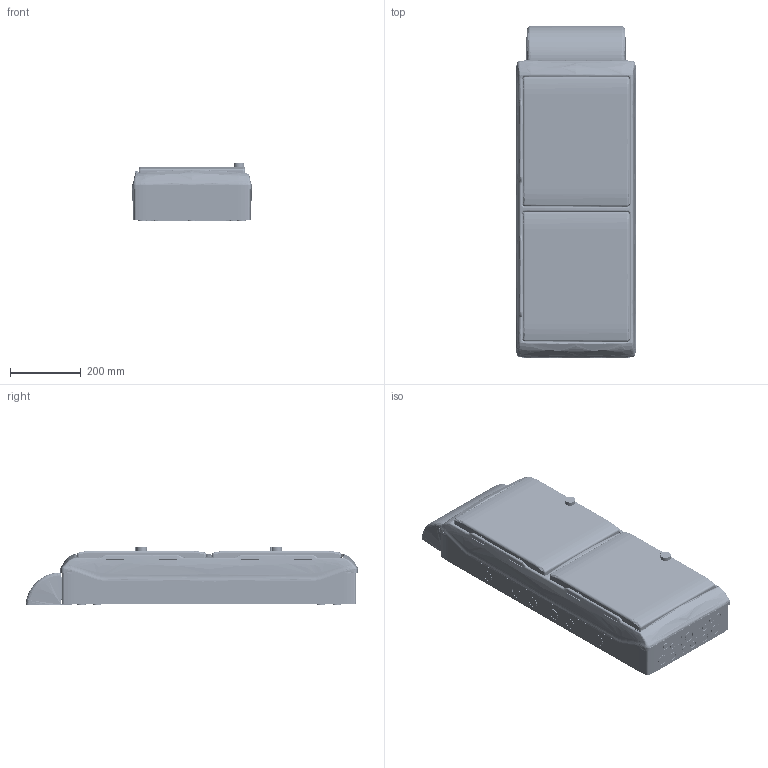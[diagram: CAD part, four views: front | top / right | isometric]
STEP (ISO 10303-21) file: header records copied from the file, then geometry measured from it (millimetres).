
FILE_DESCRIPTION((''),'2;1');
FILE_NAME('13988_3D-SIMPLIFIED_ASM','2024-02-16T16:20:36',('gines.fernandez'),(''),'CREO PARAMETRIC BY PTC INC, 2018260','CREO PARAMETRIC BY PTC INC, 2018260','');
FILE_SCHEMA(('AUTOMOTIVE_DESIGN { 1 0 10303 214 1 1 1 1 }'));
Products named in the file (76): 13988_3D-SIMPLIFIED_1; 13988_3D-SIMPLIFIED_2; 13988_3D-SIMPLIFIED_3; 13988_3D-SIMPLIFIED_4; 13988_3D-SIMPLIFIED_5; 13988_3D-SIMPLIFIED_11; 13988_3D-SIMPLIFIED_12; 13988_3D-SIMPLIFIED_13; 13988_3D-SIMPLIFIED_19; 13988_3D-SIMPLIFIED_20; 13988_3D-SIMPLIFIED_21; 13988_3D-SIMPLIFIED_25; 13988_3D-SIMPLIFIED_26; 13988_3D-SIMPLIFIED_27; 13988_3D-SIMPLIFIED_31; 13988_3D-SIMPLIFIED_32; 13988_3D-SIMPLIFIED_33; 13988_3D-SIMPLIFIED_34; 13988_3D-SIMPLIFIED_35; 13988_3D-SIMPLIFIED_36; 13988_3D-SIMPLIFIED_37; 13988_3D-SIMPLIFIED_38; 13988_3D-SIMPLIFIED_39; 13988_3D-SIMPLIFIED_42; 13988_3D-SIMPLIFIED_43; 13988_3D-SIMPLIFIED_44; 13988_3D-SIMPLIFIED_45; 13988_3D-SIMPLIFIED_46; 13988_3D-SIMPLIFIED_47; 13988_3D-SIMPLIFIED_48; 13988_3D-SIMPLIFIED_49; 13988_3D-SIMPLIFIED_50; 13988_3D-SIMPLIFIED_53; 13988_3D-SIMPLIFIED_54; 13988_3D-SIMPLIFIED_55; 13988_3D-SIMPLIFIED_56; 13988_3D-SIMPLIFIED_59; 13988_3D-SIMPLIFIED_60; 13988_3D-SIMPLIFIED_61; 13988_3D-SIMPLIFIED_62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
Assembly tree (75 placements, depth 3):
  13988_3D-SIMPLIFIED_ASM
    ASM0002_ASM
      13988_3D-SIMPLIFIED_1
      13988_3D-SIMPLIFIED_2
      13988_3D-SIMPLIFIED_3
      13988_3D-SIMPLIFIED_4
      13988_3D-SIMPLIFIED_5
      13988_3D-SIMPLIFIED_11
      13988_3D-SIMPLIFIED_12
      13988_3D-SIMPLIFIED_13
      13988_3D-SIMPLIFIED_19
      13988_3D-SIMPLIFIED_20
      13988_3D-SIMPLIFIED_21
      13988_3D-SIMPLIFIED_25
      13988_3D-SIMPLIFIED_26
      13988_3D-SIMPLIFIED_27
      13988_3D-SIMPLIFIED_31
      13988_3D-SIMPLIFIED_32
      13988_3D-SIMPLIFIED_33
      13988_3D-SIMPLIFIED_34
      13988_3D-SIMPLIFIED_35
      13988_3D-SIMPLIFIED_36
      13988_3D-SIMPLIFIED_37
      13988_3D-SIMPLIFIED_38
      13988_3D-SIMPLIFIED_39
      13988_3D-SIMPLIFIED_42
      13988_3D-SIMPLIFIED_43
      13988_3D-SIMPLIFIED_44
      13988_3D-SIMPLIFIED_45
      13988_3D-SIMPLIFIED_46
      13988_3D-SIMPLIFIED_47
      13988_3D-SIMPLIFIED_48
      13988_3D-SIMPLIFIED_49
      13988_3D-SIMPLIFIED_50
      13988_3D-SIMPLIFIED_53
      13988_3D-SIMPLIFIED_54
      13988_3D-SIMPLIFIED_55
      13988_3D-SIMPLIFIED_56
      13988_3D-SIMPLIFIED_59
      13988_3D-SIMPLIFIED_60
      13988_3D-SIMPLIFIED_61
      13988_3D-SIMPLIFIED_62
      13988_3D-SIMPLIFIED_63
      13988_3D-SIMPLIFIED_65
      13988_3D-SIMPLIFIED_66
      13988_3D-SIMPLIFIED_69
      13988_3D-SIMPLIFIED_70
      13988_3D-SIMPLIFIED_71
      13988_3D-SIMPLIFIED_72
      13988_3D-SIMPLIFIED_73
      13988_3D-SIMPLIFIED_75
      13988_3D-SIMPLIFIED_76
      13988_3D-SIMPLIFIED_79
      13988_3D-SIMPLIFIED_80
      13988_3D-SIMPLIFIED_81
      13988_3D-SIMPLIFIED_82
      13988_3D-SIMPLIFIED_83
      13988_3D-SIMPLIFIED_84
      13988_3D-SIMPLIFIED_85
      13988_3D-SIMPLIFIED_86
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Bounding box: 340.13 x 938.89 x 163.76 mm (x, y, z)
Volume: 6518762.5 mm3; surface area: 3307648.4 mm2
Topology: 73 solids, 77 shells, 11664 faces, 30901 edges, 19858 vertices
Faces by surface type: plane 5897, cylinder 2905, bspline 1293, extrusion 717, torus 346, cone 322, sphere 182, revolution 2
Entity records: 607688 total; most frequent: CARTESIAN_POINT 145608, ORIENTED_EDGE 61554, DIRECTION 51429, PRESENTATION_STYLE_ASSIGNMENT 43237, STYLED_ITEM 43237, CURVE_STYLE 31498, EDGE_CURVE 30780, VERTEX_POINT 19854
